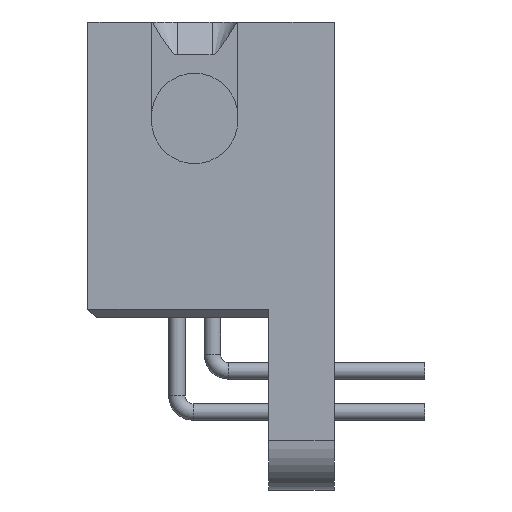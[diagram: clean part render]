
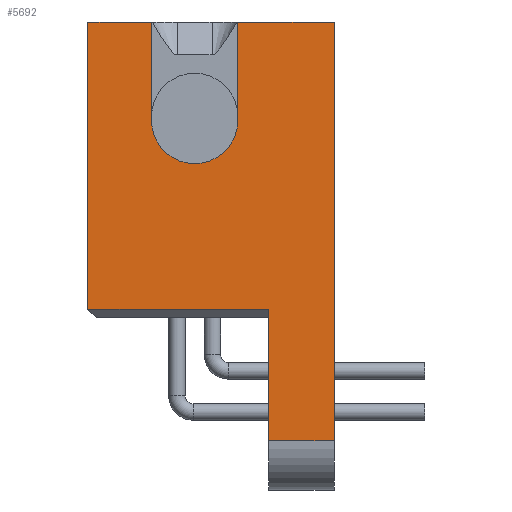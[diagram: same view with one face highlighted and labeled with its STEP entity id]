
A CAD part, left-side view. The second image highlights one B-rep face of the part: STEP entity #5692.
In plain terms, the highlighted planar face has unit normal (-1, 0, 0).
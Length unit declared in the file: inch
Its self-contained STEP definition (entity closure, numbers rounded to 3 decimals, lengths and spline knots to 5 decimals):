
#1054 = FACE_OUTER_BOUND ( 'NONE', #4965, .T. ) ;
#4965 = EDGE_LOOP ( 'NONE', ( #7992, #7993, #7994, #7995, #7996, #7997, #7998, #7999, #8000, #8001 ) ) ;
#5692 = ADVANCED_FACE ( 'NONE', ( #1054 ), #15957, .F. ) ;
#7281 = VERTEX_POINT ( 'NONE', #17334 ) ;
#7282 = VERTEX_POINT ( 'NONE', #17335 ) ;
#7327 = VERTEX_POINT ( 'NONE', #17380 ) ;
#7330 = VERTEX_POINT ( 'NONE', #17383 ) ;
#7335 = VERTEX_POINT ( 'NONE', #17388 ) ;
#7992 = ORIENTED_EDGE ( 'NONE', *, *, #23617, .T. ) ;
#7993 = ORIENTED_EDGE ( 'NONE', *, *, #25001, .T. ) ;
#7994 = ORIENTED_EDGE ( 'NONE', *, *, #24999, .T. ) ;
#7995 = ORIENTED_EDGE ( 'NONE', *, *, #24997, .T. ) ;
#7996 = ORIENTED_EDGE ( 'NONE', *, *, #24994, .F. ) ;
#7997 = ORIENTED_EDGE ( 'NONE', *, *, #23615, .F. ) ;
#7998 = ORIENTED_EDGE ( 'NONE', *, *, #24992, .F. ) ;
#7999 = ORIENTED_EDGE ( 'NONE', *, *, #24990, .T. ) ;
#8000 = ORIENTED_EDGE ( 'NONE', *, *, #24988, .F. ) ;
#8001 = ORIENTED_EDGE ( 'NONE', *, *, #23614, .F. ) ;
#8463 = VERTEX_POINT ( 'NONE', #17606 ) ;
#10139 = VERTEX_POINT ( 'NONE', #17741 ) ;
#10160 = VERTEX_POINT ( 'NONE', #17759 ) ;
#10168 = VERTEX_POINT ( 'NONE', #17767 ) ;
#10415 = VERTEX_POINT ( 'NONE', #17816 ) ;
#14297 = AXIS2_PLACEMENT_3D ( 'NONE', #15958, #15963, #15964 ) ;
#15957 = PLANE ( 'NONE',  #14297 ) ;
#15958 = CARTESIAN_POINT ( 'NONE',  ( -0.4625, 0.13, 0.235 ) ) ;
#15963 = DIRECTION ( 'NONE',  ( 1., 0., 0. ) ) ;
#15964 = DIRECTION ( 'NONE',  ( 0., 0., 1. ) ) ;
#17334 = CARTESIAN_POINT ( 'NONE',  ( -0.4625, 0.13, -0.115 ) ) ;
#17335 = CARTESIAN_POINT ( 'NONE',  ( -0.4625, -0.09, -0.115 ) ) ;
#17380 = CARTESIAN_POINT ( 'NONE',  ( -0.4625, -0.09, -0.275 ) ) ;
#17383 = CARTESIAN_POINT ( 'NONE',  ( -0.4625, -0.17, 0.235 ) ) ;
#17388 = CARTESIAN_POINT ( 'NONE',  ( -0.4625, -0.0525, 0.235 ) ) ;
#17606 = CARTESIAN_POINT ( 'NONE',  ( -0.4625, 0.13, 0.235 ) ) ;
#17741 = CARTESIAN_POINT ( 'NONE',  ( -0.4625, 0.0525, 0.235 ) ) ;
#17759 = CARTESIAN_POINT ( 'NONE',  ( -0.4625, -0.0525, 0.115 ) ) ;
#17767 = CARTESIAN_POINT ( 'NONE',  ( -0.4625, -0.17, -0.275 ) ) ;
#17816 = CARTESIAN_POINT ( 'NONE',  ( -0.4625, 0.0525, 0.115 ) ) ;
#19707 = LINE ( 'NONE', #20683, #19710 ) ;
#19709 = LINE ( 'NONE', #20685, #19712 ) ;
#19710 = VECTOR ( 'NONE', #20684, 39.37008 ) ;
#19712 = VECTOR ( 'NONE', #20686, 39.37008 ) ;
#19713 = LINE ( 'NONE', #20689, #19716 ) ;
#19716 = VECTOR ( 'NONE', #20691, 39.37008 ) ;
#20683 = CARTESIAN_POINT ( 'NONE',  ( -0.4625, 0.13, 0.235 ) ) ;
#20684 = DIRECTION ( 'NONE',  ( 0., -1., 0. ) ) ;
#20685 = CARTESIAN_POINT ( 'NONE',  ( -0.4625, 0.13, 0.235 ) ) ;
#20686 = DIRECTION ( 'NONE',  ( 0., -1., 0. ) ) ;
#20689 = CARTESIAN_POINT ( 'NONE',  ( -0.4625, 0.13, 0.235 ) ) ;
#20691 = DIRECTION ( 'NONE',  ( 0., 0., -1. ) ) ;
#22564 = AXIS2_PLACEMENT_3D ( 'NONE', #23228, #23229, #23230 ) ;
#23222 = CARTESIAN_POINT ( 'NONE',  ( -0.4625, 0.0525, 0.0625 ) ) ;
#23223 = DIRECTION ( 'NONE',  ( 0., 0., -1. ) ) ;
#23228 = CARTESIAN_POINT ( 'NONE',  ( -0.4625, 0., 0.115 ) ) ;
#23229 = DIRECTION ( 'NONE',  ( 1., 0., 0. ) ) ;
#23230 = DIRECTION ( 'NONE',  ( 0., 0., 1. ) ) ;
#23231 = CARTESIAN_POINT ( 'NONE',  ( -0.4625, -0.0525, 0.0625 ) ) ;
#23232 = DIRECTION ( 'NONE',  ( 0., 0., 1. ) ) ;
#23235 = CARTESIAN_POINT ( 'NONE',  ( -0.4625, -0.17, 0.45972 ) ) ;
#23236 = DIRECTION ( 'NONE',  ( 0., 0., -1. ) ) ;
#23237 = CARTESIAN_POINT ( 'NONE',  ( -0.4625, -0.09, 0.45972 ) ) ;
#23238 = DIRECTION ( 'NONE',  ( 0., 0., -1. ) ) ;
#23242 = CARTESIAN_POINT ( 'NONE',  ( -0.4625, -0.17, -0.275 ) ) ;
#23243 = DIRECTION ( 'NONE',  ( 0., -1., 0. ) ) ;
#23250 = CARTESIAN_POINT ( 'NONE',  ( -0.4625, -0.09, -0.115 ) ) ;
#23251 = DIRECTION ( 'NONE',  ( 0., -1., 0. ) ) ;
#23614 = EDGE_CURVE ( 'NONE', #8463, #10139, #19707, .T. ) ;
#23615 = EDGE_CURVE ( 'NONE', #7335, #7330, #19709, .T. ) ;
#23617 = EDGE_CURVE ( 'NONE', #8463, #7281, #19713, .T. ) ;
#23828 = LINE ( 'NONE', #23222, #23834 ) ;
#23834 = VECTOR ( 'NONE', #23223, 39.37008 ) ;
#23835 = CIRCLE ( 'NONE', #22564, 0.0525 ) ;
#23841 = LINE ( 'NONE', #23231, #23847 ) ;
#23847 = VECTOR ( 'NONE', #23232, 39.37008 ) ;
#23849 = LINE ( 'NONE', #23235, #23854 ) ;
#23854 = VECTOR ( 'NONE', #23236, 39.37008 ) ;
#23858 = LINE ( 'NONE', #23242, #23864 ) ;
#23864 = VECTOR ( 'NONE', #23243, 39.37008 ) ;
#23865 = LINE ( 'NONE', #23237, #23869 ) ;
#23869 = VECTOR ( 'NONE', #23238, 39.37008 ) ;
#23871 = LINE ( 'NONE', #23250, #23877 ) ;
#23877 = VECTOR ( 'NONE', #23251, 39.37008 ) ;
#24988 = EDGE_CURVE ( 'NONE', #10139, #10415, #23828, .T. ) ;
#24990 = EDGE_CURVE ( 'NONE', #10160, #10415, #23835, .T. ) ;
#24992 = EDGE_CURVE ( 'NONE', #10160, #7335, #23841, .T. ) ;
#24994 = EDGE_CURVE ( 'NONE', #7330, #10168, #23849, .T. ) ;
#24997 = EDGE_CURVE ( 'NONE', #7327, #10168, #23858, .T. ) ;
#24999 = EDGE_CURVE ( 'NONE', #7282, #7327, #23865, .T. ) ;
#25001 = EDGE_CURVE ( 'NONE', #7281, #7282, #23871, .T. ) ;
